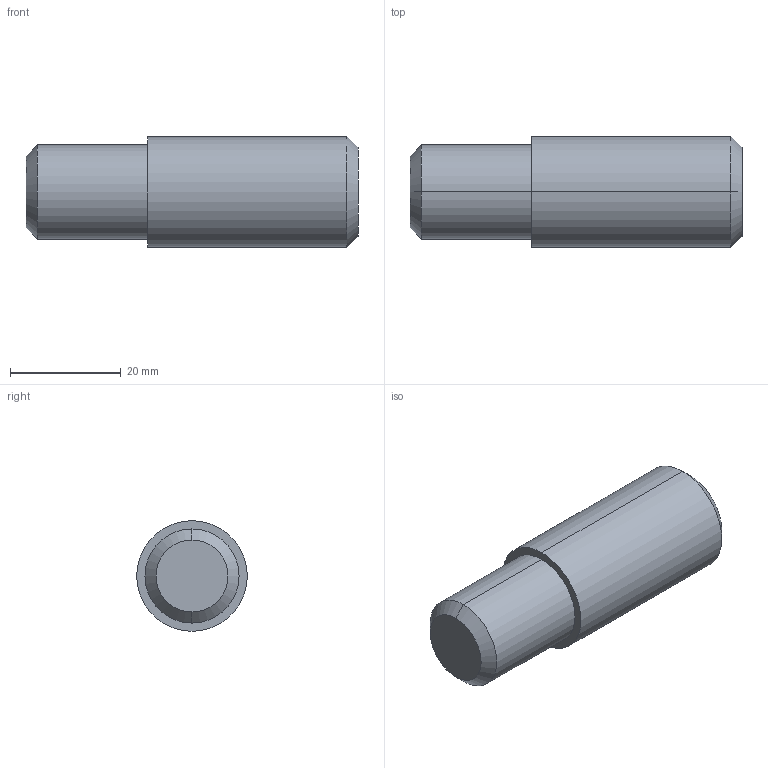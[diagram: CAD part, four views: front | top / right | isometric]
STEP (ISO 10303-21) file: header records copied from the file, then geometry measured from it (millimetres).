
FILE_DESCRIPTION (( 'STEP AP203' ), '1' );
FILE_NAME ('084.802.014.STEP', '2013-01-29T13:41:31', ( 'Alusic' ), ( 'Alusic' ), 'SwSTEP 2.0', 'SolidWorks 2011', '' );
FILE_SCHEMA (( 'CONFIG_CONTROL_DESIGN' ));
Length unit declared in the file: millimetre
Products named in the file (1): 084.802.014
Bounding box: 60 x 20 x 20 mm (x, y, z)
Volume: 16715.9 mm3; surface area: 4044.3 mm2
Topology: 1 solids, 1 shells, 11 faces, 20 edges, 12 vertices
Faces by surface type: cone 4, cylinder 4, plane 3
Entity records: 351 total; most frequent: DIRECTION 56, CARTESIAN_POINT 44, ORIENTED_EDGE 40, AXIS2_PLACEMENT_3D 24, EDGE_CURVE 20, CIRCLE 12, EDGE_LOOP 12, VERTEX_POINT 12
